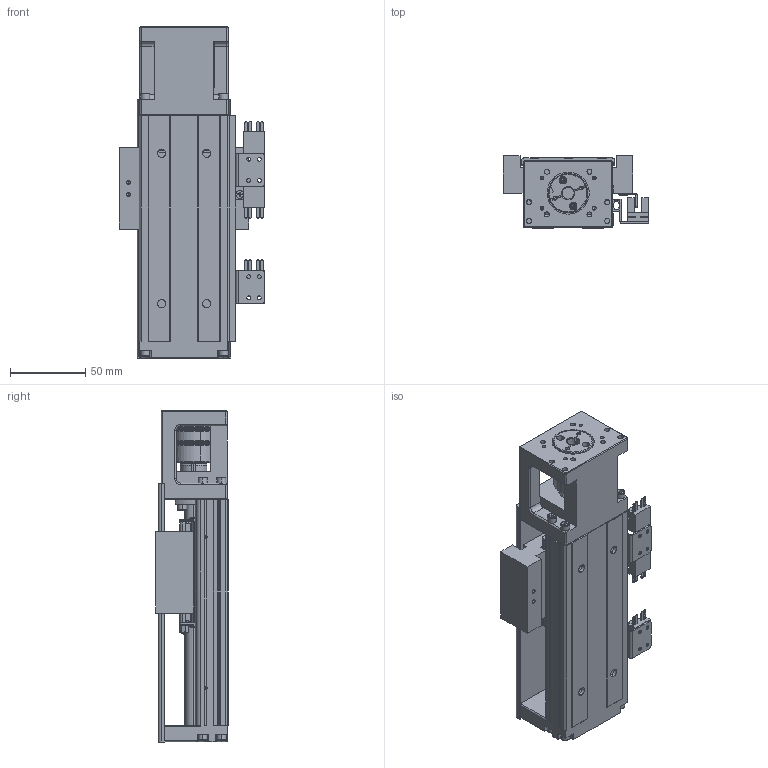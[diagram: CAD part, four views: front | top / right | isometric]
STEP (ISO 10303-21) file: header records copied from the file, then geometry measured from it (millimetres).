
FILE_DESCRIPTION (( 'STEP AP214' ), '1' );
FILE_NAME ('SFKK60-150A1-F0C.STEP', '2023-02-17T01:40:01', ( '微软用户' ), ( '微软中国' ), 'SwSTEP 2.0', 'SolidWorks 2018', '' );
FILE_SCHEMA (( 'AUTOMOTIVE_DESIGN' ));
Length unit declared in the file: millimetre
Products named in the file (12): SFD26x33-8-8_8; SFKK60-F0_150; SFKK60-A1-C; hexagon socket countersunk head screws gb_GB_FASTENER_SCREWS_HSCHS M3X8-N; 带盖挡光片：KK-60-S2-D1; 蚐郲; 极限轨道与开关固定座组合_150; 开关固定座：KK-674S2-F; SFKK60-150A1-F0C; SFKK60-LR 憤癹寢耋_150; SX674嫖萇羲壽; SFKK-60-CU_150
Assembly tree (17 placements, depth 3):
  SFKK60-150A1-F0C
    SFKK60-F0_150
    SFKK60-A1-C
    蚐郲
    极限轨道与开关固定座组合_150
      SFKK60-LR 憤癹寢耋_150
      开关固定座：KK-674S2-F  x2
    SX674嫖萇羲壽  x3
    带盖挡光片：KK-60-S2-D1
    SFKK-60-CU_150
    hexagon socket countersunk head screws gb_GB_FASTENER_SCREWS_HSCHS M3X8-N  x4
    SFD26x33-8-8_8
Bounding box: 96.4 x 48 x 220.6 mm (x, y, z)
Volume: 385546 mm3; surface area: 164178.8 mm2
Topology: 41 solids, 41 shells, 2100 faces, 5471 edges, 3480 vertices
Faces by surface type: plane 1025, cylinder 806, cone 168, torus 87, sphere 10, bspline 4
Entity records: 74431 total; most frequent: CARTESIAN_POINT 13392, DIRECTION 10356, ORIENTED_EDGE 9834, EDGE_CURVE 4917, AXIS2_PLACEMENT_3D 3707, VERTEX_POINT 3183, VECTOR 2942, LINE 2942
